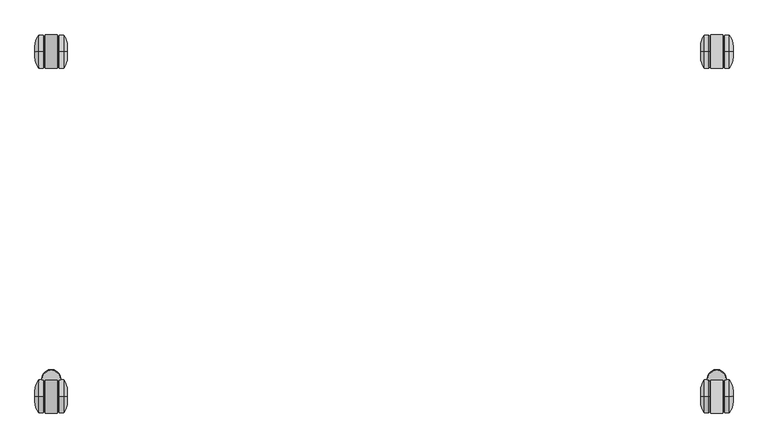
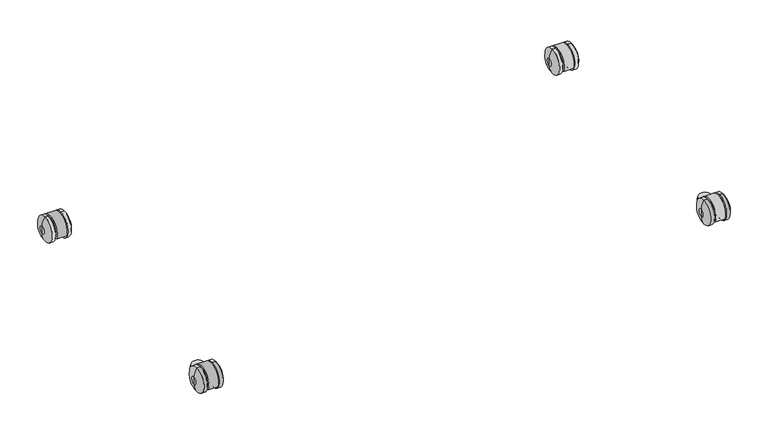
"""IFC4 building model written with IfcOpenShell, lengths in millimetres: furniture geometry, SmithSystem_AM_Table_Education_Elemental_NestAndFold_30D : 30D x 60W."""

from ifc_helpers import new_model, si_unit, point, frame, frame_2d, origin, place, context, project, spatial, polyline, circle_curve, ellipse_curve, trimmed, segment, composite_curve, outline, extrude, source, transform, mapped, element, save
from ifc_brep_helpers import plane_surface, cylinder_surface, revolved_surface, advanced_brep


def furniture_45545131(model_context):
    return source(origin(), model_context, "Body", "SolidModel", [
        extrude(outline(composite_curve([segment(trimmed(circle_curve(frame_2d((19.6281289, -2.9116943)), 19.8429183), [point((39.2562578, 0.0))], [point((0.0, 0.0))], False, "CARTESIAN"), True, "CONTINUOUS"), segment(polyline([(0.0, 0.0), (39.2562578, 0.0)]), True, "CONTINUOUS")], self_intersect=False)), frame((1475.9610423, -683.6722069, 35.4234949), z_axis=(0.0, -0.3384834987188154, 0.9409723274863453), x_axis=(-1.0, 0.0, 0.0)), (0.0, 0.0, 1.0), 5.0798819),
        extrude(outline(composite_curve([segment(polyline([(1388.6658268, 0.0), (1427.9220846, 0.0)]), True, "CONTINUOUS"), segment(trimmed(circle_curve(frame_2d((1408.2939557, -2.9116943)), 19.8429183), [point((1427.9220846, 0.0))], [point((1388.6658268, 0.0))], False, "CARTESIAN"), True, "CONTINUOUS")], self_intersect=False)), frame((1475.9610423, -683.6722069, 35.4234949), z_axis=(0.0, -0.3384834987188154, 0.9409723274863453), x_axis=(-1.0, 0.0, 0.0)), (0.0, 0.0, 1.0), 5.0798819),
        extrude(outline(composite_curve([segment(polyline([(-686.7716582, 19.392668), (-749.5174044, 19.392668)]), True, "CONTINUOUS"), segment(trimmed(circle_curve(frame_2d((-718.1445313, 34.2990606)), 34.7341), [point((-749.5174044, 19.392668))], [point((-686.7716582, 19.392668))], False, "CARTESIAN"), True, "CONTINUOUS")], self_intersect=False)), frame((54.6490652, 0.0, 0.0), z_axis=(1.0, 0.0, 0.0), x_axis=(0.0, 1.0, 0.0)), (0.0, 0.0, 1.0), 26.0360428),
        extrude(outline(composite_curve([segment(polyline([(32.7611544, 19.392668), (-29.9845918, 19.392668)]), True, "CONTINUOUS"), segment(trimmed(circle_curve(frame_2d((1.3882813, 34.2990606)), 34.7341), [point((-29.9845918, 19.392668))], [point((32.7611544, 19.392668))], False, "CARTESIAN"), True, "CONTINUOUS")], self_intersect=False)), frame((54.6490652, 0.0, 0.0), z_axis=(1.0, 0.0, 0.0), x_axis=(0.0, 1.0, 0.0)), (0.0, 0.0, 1.0), 26.0360428),
        extrude(outline(composite_curve([segment(polyline([(-686.7716582, 19.392668), (-749.5174044, 19.392668)]), True, "CONTINUOUS"), segment(trimmed(circle_curve(frame_2d((-718.1445313, 34.2990606)), 34.7341), [point((-749.5174044, 19.392668))], [point((-686.7716582, 19.392668))], False, "CARTESIAN"), True, "CONTINUOUS")], self_intersect=False)), frame((1443.314892, 0.0, 0.0), z_axis=(1.0, 0.0, 0.0), x_axis=(0.0, 1.0, 0.0)), (0.0, 0.0, 1.0), 26.0360428),
        extrude(outline(composite_curve([segment(polyline([(32.7611544, 19.392668), (-29.9845918, 19.392668)]), True, "CONTINUOUS"), segment(trimmed(circle_curve(frame_2d((1.3882813, 34.2990606)), 34.7341), [point((-29.9845918, 19.392668))], [point((32.7611544, 19.392668))], False, "CARTESIAN"), True, "CONTINUOUS")], self_intersect=False)), frame((1443.314892, 0.0, 0.0), z_axis=(1.0, 0.0, 0.0), x_axis=(0.0, 1.0, 0.0)), (0.0, 0.0, 1.0), 26.0360428),
        advanced_brep(
        [(1441.7769566, 1.3882813, 34.3697295), (1441.7769566, 1.3882813, 66.3180847), (1441.7769566, 1.3882813, 2.4213744), (1439.6062544, 1.3882813, 69.0331606), (1439.6062544, 1.3882813, -0.2937015), (1430.6015712, 1.3882813, 69.0331606), (1430.6015712, 1.3882813, -0.2937015), (1422.6841685, 1.3882813, 45.9515492), (1422.6841685, 1.3882813, 22.7879099), (1422.6841685, 1.3882813, 34.3697295)],
        [
            (0, 1),
            (1, 2, circle_curve(frame((1441.7769566, 1.3882813, 34.3697295), z_axis=(1.0, 0.0, 0.0), x_axis=(0.0, 0.0, 1.0)), 31.9483552)),
            (2, 0),
            (2, 1, circle_curve(frame((1441.7769566, 1.3882813, 34.3697295), z_axis=(1.0, 0.0, 0.0), x_axis=(0.0, 0.0, 1.0)), 31.9483552)),
            (1, 3),
            (3, 4, circle_curve(frame((1439.6062544, 1.3882813, 34.3697295), z_axis=(1.0, 0.0, 0.0), x_axis=(0.0, 0.0, 1.0)), 34.6634311)),
            (4, 2),
            (4, 3, circle_curve(frame((1439.6062544, 1.3882813, 34.3697295), z_axis=(1.0, 0.0, 0.0), x_axis=(0.0, 0.0, 1.0)), 34.6634311)),
            (3, 5),
            (5, 6, circle_curve(frame((1430.6015712, 1.3882813, 34.3697295), z_axis=(1.0, 0.0, 0.0), x_axis=(0.0, 0.0, 1.0)), 34.6634311)),
            (6, 4),
            (6, 5, circle_curve(frame((1430.6015712, 1.3882813, 34.3697295), z_axis=(1.0, 0.0, 0.0), x_axis=(0.0, 0.0, 1.0)), 34.6634311)),
            (5, 7, circle_curve(frame((1460.2877916, 1.3882813, 45.9515492), z_axis=(0.0, -1.0, 0.0), x_axis=(1.0, 0.0, 0.0)), 37.6036231)),
            (7, 8, circle_curve(frame((1422.6841685, 1.3882813, 34.3697295), z_axis=(1.0, 0.0, 0.0), x_axis=(0.0, 0.0, 1.0)), 11.5818197)),
            (8, 6, circle_curve(frame((1460.2877916, 1.3882813, 22.7879099), z_axis=(0.0, -1.0, 0.0), x_axis=(1.0, 0.0, 0.0)), 37.6036231)),
            (8, 7, circle_curve(frame((1422.6841685, 1.3882813, 34.3697295), z_axis=(1.0, 0.0, 0.0), x_axis=(0.0, 0.0, 1.0)), 11.5818197)),
            (7, 9),
            (9, 8),
        ],
        [
            plane_surface(frame((1441.7769566, 1.3882813, 34.3697295), z_axis=(1.0, 0.0, 0.0), x_axis=(0.0, 0.0, 1.0))),
            revolved_surface(polyline([(1439.6062544, 1.3882813, 69.0331606), (1441.7769566, 1.3882813, 66.3180847)]), (1422.6841685, 1.3882813, 34.3697295), (1.0, 0.0, 0.0)),
            cylinder_surface(frame((1422.6841685, 1.3882813, 34.3697295), z_axis=(1.0, 0.0, 0.0), x_axis=(0.0, 0.0, 1.0)), 34.6634311),
            revolved_surface(trimmed(ellipse_curve(frame((1460.2877916, 1.3882813, 45.9515492), z_axis=(0.0, 1.0, 0.0), x_axis=(1.0, 0.0, 0.0)), 37.6036231, 37.6036231), [point((1422.6841685, 1.3882813, 45.9515492))], [point((1430.6015712, 1.3882813, 69.0331606))], True, "CARTESIAN"), (1422.6841685, 1.3882813, 34.3697295), (1.0, 0.0, 0.0)),
            plane_surface(frame((1422.6841685, 1.3882813, 34.3697295), z_axis=(-1.0, 0.0, 0.0), x_axis=(0.0, 0.0, 1.0))),
        ],
        [
            (0, [[1, 2, 3]]),
            (0, [[-3, 4, -1]]),
            (1, [[-2, 5, 6, 7]]),
            (1, [[-4, -7, 8, -5]]),
            (2, [[-6, 9, 10, 11]]),
            (2, [[-8, -11, 12, -9]]),
            (3, [[-10, 13, 14, 15]]),
            (3, [[-12, -15, 16, -13]]),
            (4, [[-14, 17, 18]]),
            (4, [[-16, -18, -17]]),
        ],
    ),
        advanced_brep(
        [(1490.4247373, 1.3882813, 34.3697295), (1490.4247373, 1.3882813, 45.9515492), (1490.4247373, 1.3882813, 22.7879099), (1482.5073346, 1.3882813, 69.0331606), (1482.5073346, 1.3882813, -0.2937015), (1473.5026514, 1.3882813, 69.0331606), (1473.5026514, 1.3882813, -0.2937015), (1471.3319492, 1.3882813, 66.3180847), (1471.3319492, 1.3882813, 2.4213744), (1471.3319492, 1.3882813, 34.3697295)],
        [
            (0, 1),
            (1, 2, circle_curve(frame((1490.4247373, 1.3882813, 34.3697295), z_axis=(1.0, 0.0, 0.0), x_axis=(0.0, 0.0, 1.0)), 11.5818197)),
            (2, 0),
            (2, 1, circle_curve(frame((1490.4247373, 1.3882813, 34.3697295), z_axis=(1.0, 0.0, 0.0), x_axis=(0.0, 0.0, 1.0)), 11.5818197)),
            (1, 3, circle_curve(frame((1452.8211142, 1.3882813, 45.9515492), z_axis=(0.0, -1.0, 0.0), x_axis=(1.0, 0.0, 0.0)), 37.6036231)),
            (3, 4, circle_curve(frame((1482.5073346, 1.3882813, 34.3697295), z_axis=(1.0, 0.0, 0.0), x_axis=(0.0, 0.0, 1.0)), 34.6634311)),
            (4, 2, circle_curve(frame((1452.8211142, 1.3882813, 22.7879099), z_axis=(0.0, -1.0, 0.0), x_axis=(1.0, 0.0, 0.0)), 37.6036231)),
            (4, 3, circle_curve(frame((1482.5073346, 1.3882813, 34.3697295), z_axis=(1.0, 0.0, 0.0), x_axis=(0.0, 0.0, 1.0)), 34.6634311)),
            (3, 5),
            (5, 6, circle_curve(frame((1473.5026514, 1.3882813, 34.3697295), z_axis=(1.0, 0.0, 0.0), x_axis=(0.0, 0.0, 1.0)), 34.6634311)),
            (6, 4),
            (6, 5, circle_curve(frame((1473.5026514, 1.3882813, 34.3697295), z_axis=(1.0, 0.0, 0.0), x_axis=(0.0, 0.0, 1.0)), 34.6634311)),
            (5, 7),
            (7, 8, circle_curve(frame((1471.3319492, 1.3882813, 34.3697295), z_axis=(1.0, 0.0, 0.0), x_axis=(0.0, 0.0, 1.0)), 31.9483552)),
            (8, 6),
            (8, 7, circle_curve(frame((1471.3319492, 1.3882813, 34.3697295), z_axis=(1.0, 0.0, 0.0), x_axis=(0.0, 0.0, 1.0)), 31.9483552)),
            (7, 9),
            (9, 8),
        ],
        [
            plane_surface(frame((1490.4247373, 1.3882813, 34.3697295), z_axis=(1.0, 0.0, 0.0), x_axis=(0.0, 0.0, 1.0))),
            revolved_surface(trimmed(ellipse_curve(frame((1452.8211142, 1.3882813, 45.9515492), z_axis=(0.0, 1.0, 0.0), x_axis=(1.0, 0.0, 0.0)), 37.6036231, 37.6036231), [point((1482.5073346, 1.3882813, 69.0331606))], [point((1490.4247373, 1.3882813, 45.9515492))], True, "CARTESIAN"), (1422.6841685, 1.3882813, 34.3697295), (1.0, 0.0, 0.0)),
            cylinder_surface(frame((1422.6841685, 1.3882813, 34.3697295), z_axis=(1.0, 0.0, 0.0), x_axis=(0.0, 0.0, 1.0)), 34.6634311),
            revolved_surface(polyline([(1471.3319492, 1.3882813, 66.3180847), (1473.5026514, 1.3882813, 69.0331606)]), (1422.6841685, 1.3882813, 34.3697295), (1.0, 0.0, 0.0)),
            plane_surface(frame((1471.3319492, 1.3882813, 34.3697295), z_axis=(-1.0, 0.0, 0.0), x_axis=(0.0, 0.0, 1.0))),
        ],
        [
            (0, [[1, 2, 3]]),
            (0, [[-3, 4, -1]]),
            (1, [[-2, 5, 6, 7]]),
            (1, [[-4, -7, 8, -5]]),
            (2, [[-6, 9, 10, 11]]),
            (2, [[-8, -11, 12, -9]]),
            (3, [[-10, 13, 14, 15]]),
            (3, [[-12, -15, 16, -13]]),
            (4, [[-14, 17, 18]]),
            (4, [[-16, -18, -17]]),
        ],
    ),
        advanced_brep(
        [(101.3158315, 1.3882813, 34.3697295), (101.3158315, 1.3882813, 45.9515492), (101.3158315, 1.3882813, 22.7879099), (93.3984288, 1.3882813, 69.0331606), (93.3984288, 1.3882813, -0.2937015), (84.3937456, 1.3882813, 69.0331606), (84.3937456, 1.3882813, -0.2937015), (82.2230434, 1.3882813, 66.3180847), (82.2230434, 1.3882813, 2.4213744), (82.2230434, 1.3882813, 34.3697295)],
        [
            (0, 1),
            (1, 2, circle_curve(frame((101.3158315, 1.3882813, 34.3697295), z_axis=(1.0, 0.0, 0.0), x_axis=(0.0, 0.0, 1.0)), 11.5818197)),
            (2, 0),
            (2, 1, circle_curve(frame((101.3158315, 1.3882813, 34.3697295), z_axis=(1.0, 0.0, 0.0), x_axis=(0.0, 0.0, 1.0)), 11.5818197)),
            (1, 3, circle_curve(frame((63.7122084, 1.3882813, 45.9515492), z_axis=(0.0, -1.0, 0.0), x_axis=(1.0, 0.0, 0.0)), 37.6036231)),
            (3, 4, circle_curve(frame((93.3984288, 1.3882813, 34.3697295), z_axis=(1.0, 0.0, 0.0), x_axis=(0.0, 0.0, 1.0)), 34.6634311)),
            (4, 2, circle_curve(frame((63.7122084, 1.3882813, 22.7879099), z_axis=(0.0, -1.0, 0.0), x_axis=(1.0, 0.0, 0.0)), 37.6036231)),
            (4, 3, circle_curve(frame((93.3984288, 1.3882813, 34.3697295), z_axis=(1.0, 0.0, 0.0), x_axis=(0.0, 0.0, 1.0)), 34.6634311)),
            (3, 5),
            (5, 6, circle_curve(frame((84.3937456, 1.3882813, 34.3697295), z_axis=(1.0, 0.0, 0.0), x_axis=(0.0, 0.0, 1.0)), 34.6634311)),
            (6, 4),
            (6, 5, circle_curve(frame((84.3937456, 1.3882813, 34.3697295), z_axis=(1.0, 0.0, 0.0), x_axis=(0.0, 0.0, 1.0)), 34.6634311)),
            (5, 7),
            (7, 8, circle_curve(frame((82.2230434, 1.3882813, 34.3697295), z_axis=(1.0, 0.0, 0.0), x_axis=(0.0, 0.0, 1.0)), 31.9483552)),
            (8, 6),
            (8, 7, circle_curve(frame((82.2230434, 1.3882813, 34.3697295), z_axis=(1.0, 0.0, 0.0), x_axis=(0.0, 0.0, 1.0)), 31.9483552)),
            (7, 9),
            (9, 8),
        ],
        [
            plane_surface(frame((101.3158315, 1.3882813, 34.3697295), z_axis=(1.0, 0.0, 0.0), x_axis=(0.0, 0.0, 1.0))),
            revolved_surface(trimmed(ellipse_curve(frame((63.7122084, 1.3882813, 45.9515492), z_axis=(0.0, 1.0, 0.0), x_axis=(1.0, 0.0, 0.0)), 37.6036231, 37.6036231), [point((93.3984288, 1.3882813, 69.0331606))], [point((101.3158315, 1.3882813, 45.9515492))], True, "CARTESIAN"), (1422.6841685, 1.3882813, 34.3697295), (1.0, 0.0, 0.0)),
            cylinder_surface(frame((1422.6841685, 1.3882813, 34.3697295), z_axis=(1.0, 0.0, 0.0), x_axis=(0.0, 0.0, 1.0)), 34.6634311),
            revolved_surface(polyline([(82.2230434, 1.3882813, 66.3180847), (84.3937456, 1.3882813, 69.0331606)]), (1422.6841685, 1.3882813, 34.3697295), (1.0, 0.0, 0.0)),
            plane_surface(frame((82.2230434, 1.3882813, 34.3697295), z_axis=(-1.0, 0.0, 0.0), x_axis=(0.0, 0.0, 1.0))),
        ],
        [
            (0, [[1, 2, 3]]),
            (0, [[-3, 4, -1]]),
            (1, [[-2, 5, 6, 7]]),
            (1, [[-4, -7, 8, -5]]),
            (2, [[-6, 9, 10, 11]]),
            (2, [[-8, -11, 12, -9]]),
            (3, [[-10, 13, 14, 15]]),
            (3, [[-12, -15, 16, -13]]),
            (4, [[-14, 17, 18]]),
            (4, [[-16, -18, -17]]),
        ],
    ),
        advanced_brep(
        [(52.6680508, 1.3882813, 34.3697295), (52.6680508, 1.3882813, 66.3180847), (52.6680508, 1.3882813, 2.4213744), (50.4973486, 1.3882813, 69.0331606), (50.4973486, 1.3882813, -0.2937015), (41.4926654, 1.3882813, 69.0331606), (41.4926654, 1.3882813, -0.2937015), (33.5752627, 1.3882813, 45.9515492), (33.5752627, 1.3882813, 22.7879099), (33.5752627, 1.3882813, 34.3697295)],
        [
            (0, 1),
            (1, 2, circle_curve(frame((52.6680508, 1.3882813, 34.3697295), z_axis=(1.0, 0.0, 0.0), x_axis=(0.0, 0.0, 1.0)), 31.9483552)),
            (2, 0),
            (2, 1, circle_curve(frame((52.6680508, 1.3882813, 34.3697295), z_axis=(1.0, 0.0, 0.0), x_axis=(0.0, 0.0, 1.0)), 31.9483552)),
            (1, 3),
            (3, 4, circle_curve(frame((50.4973486, 1.3882813, 34.3697295), z_axis=(1.0, 0.0, 0.0), x_axis=(0.0, 0.0, 1.0)), 34.6634311)),
            (4, 2),
            (4, 3, circle_curve(frame((50.4973486, 1.3882813, 34.3697295), z_axis=(1.0, 0.0, 0.0), x_axis=(0.0, 0.0, 1.0)), 34.6634311)),
            (3, 5),
            (5, 6, circle_curve(frame((41.4926654, 1.3882813, 34.3697295), z_axis=(1.0, 0.0, 0.0), x_axis=(0.0, 0.0, 1.0)), 34.6634311)),
            (6, 4),
            (6, 5, circle_curve(frame((41.4926654, 1.3882813, 34.3697295), z_axis=(1.0, 0.0, 0.0), x_axis=(0.0, 0.0, 1.0)), 34.6634311)),
            (5, 7, circle_curve(frame((71.1788858, 1.3882813, 45.9515492), z_axis=(0.0, -1.0, 0.0), x_axis=(1.0, 0.0, 0.0)), 37.6036231)),
            (7, 8, circle_curve(frame((33.5752627, 1.3882813, 34.3697295), z_axis=(1.0, 0.0, 0.0), x_axis=(0.0, 0.0, 1.0)), 11.5818197)),
            (8, 6, circle_curve(frame((71.1788858, 1.3882813, 22.7879099), z_axis=(0.0, -1.0, 0.0), x_axis=(1.0, 0.0, 0.0)), 37.6036231)),
            (8, 7, circle_curve(frame((33.5752627, 1.3882813, 34.3697295), z_axis=(1.0, 0.0, 0.0), x_axis=(0.0, 0.0, 1.0)), 11.5818197)),
            (7, 9),
            (9, 8),
        ],
        [
            plane_surface(frame((52.6680508, 1.3882813, 34.3697295), z_axis=(1.0, 0.0, 0.0), x_axis=(0.0, 0.0, 1.0))),
            revolved_surface(polyline([(50.4973486, 1.3882813, 69.0331606), (52.6680508, 1.3882813, 66.3180847)]), (1422.6841685, 1.3882813, 34.3697295), (1.0, 0.0, 0.0)),
            cylinder_surface(frame((1422.6841685, 1.3882813, 34.3697295), z_axis=(1.0, 0.0, 0.0), x_axis=(0.0, 0.0, 1.0)), 34.6634311),
            revolved_surface(trimmed(ellipse_curve(frame((71.1788858, 1.3882813, 45.9515492), z_axis=(0.0, 1.0, 0.0), x_axis=(1.0, 0.0, 0.0)), 37.6036231, 37.6036231), [point((33.5752627, 1.3882813, 45.9515492))], [point((41.4926654, 1.3882813, 69.0331606))], True, "CARTESIAN"), (1422.6841685, 1.3882813, 34.3697295), (1.0, 0.0, 0.0)),
            plane_surface(frame((33.5752627, 1.3882813, 34.3697295), z_axis=(-1.0, 0.0, 0.0), x_axis=(0.0, 0.0, 1.0))),
        ],
        [
            (0, [[1, 2, 3]]),
            (0, [[-3, 4, -1]]),
            (1, [[-2, 5, 6, 7]]),
            (1, [[-4, -7, 8, -5]]),
            (2, [[-6, 9, 10, 11]]),
            (2, [[-8, -11, 12, -9]]),
            (3, [[-10, 13, 14, 15]]),
            (3, [[-12, -15, 16, -13]]),
            (4, [[-14, 17, 18]]),
            (4, [[-16, -18, -17]]),
        ],
    ),
        advanced_brep(
        [(1441.7769566, -718.2151283, 2.4213744), (1441.7769566, -718.2151283, 66.3180847), (1441.7769566, -718.2151283, 34.3697295), (1439.6062544, -718.2151283, -0.2937015), (1439.6062544, -718.2151283, 69.0331606), (1430.6015712, -718.2151283, -0.2937015), (1430.6015712, -718.2151283, 69.0331606), (1422.6841685, -718.2151283, 22.7879099), (1422.6841685, -718.2151283, 45.9515492), (1422.6841685, -718.2151283, 34.3697295)],
        [
            (0, 1, circle_curve(frame((1441.7769566, -718.2151283, 34.3697295), z_axis=(1.0, 0.0, 0.0), x_axis=(0.0, 0.0, 1.0)), 31.9483552)),
            (1, 2),
            (2, 0),
            (1, 0, circle_curve(frame((1441.7769566, -718.2151283, 34.3697295), z_axis=(1.0, 0.0, 0.0), x_axis=(0.0, 0.0, 1.0)), 31.9483552)),
            (3, 4, circle_curve(frame((1439.6062544, -718.2151283, 34.3697295), z_axis=(1.0, 0.0, 0.0), x_axis=(0.0, 0.0, 1.0)), 34.6634311)),
            (4, 1),
            (0, 3),
            (4, 3, circle_curve(frame((1439.6062544, -718.2151283, 34.3697295), z_axis=(1.0, 0.0, 0.0), x_axis=(0.0, 0.0, 1.0)), 34.6634311)),
            (5, 6, circle_curve(frame((1430.6015712, -718.2151283, 34.3697295), z_axis=(1.0, 0.0, 0.0), x_axis=(0.0, 0.0, 1.0)), 34.6634311)),
            (6, 4),
            (3, 5),
            (6, 5, circle_curve(frame((1430.6015712, -718.2151283, 34.3697295), z_axis=(1.0, 0.0, 0.0), x_axis=(0.0, 0.0, 1.0)), 34.6634311)),
            (7, 8, circle_curve(frame((1422.6841685, -718.2151283, 34.3697295), z_axis=(1.0, 0.0, 0.0), x_axis=(0.0, 0.0, 1.0)), 11.5818197)),
            (8, 6, circle_curve(frame((1460.2877916, -718.2151283, 45.9515492), z_axis=(0.0, 1.0, 0.0), x_axis=(1.0, 0.0, 0.0)), 37.6036231)),
            (5, 7, circle_curve(frame((1460.2877916, -718.2151283, 22.7879099), z_axis=(0.0, 1.0, 0.0), x_axis=(1.0, 0.0, 0.0)), 37.6036231)),
            (8, 7, circle_curve(frame((1422.6841685, -718.2151283, 34.3697295), z_axis=(1.0, 0.0, 0.0), x_axis=(0.0, 0.0, 1.0)), 11.5818197)),
            (9, 8),
            (7, 9),
        ],
        [
            plane_surface(frame((1441.7769566, -718.2151283, 34.3697295), z_axis=(1.0, 0.0, 0.0), x_axis=(0.0, 0.0, 1.0))),
            revolved_surface(polyline([(1441.7769566, -718.2151283, 66.3180847), (1439.6062544, -718.2151283, 69.0331606)]), (1422.6841685, -718.2151283, 34.3697295), (-1.0, 0.0, 0.0)),
            cylinder_surface(frame((1422.6841685, -718.2151283, 34.3697295), z_axis=(-1.0, 0.0, 0.0), x_axis=(0.0, 0.0, 1.0)), 34.6634311),
            revolved_surface(trimmed(ellipse_curve(frame((1460.2877916, -718.2151283, 45.9515492), z_axis=(0.0, -1.0, 0.0), x_axis=(1.0, 0.0, 0.0)), 37.6036231, 37.6036231), [point((1430.6015712, -718.2151283, 69.0331606))], [point((1422.6841685, -718.2151283, 45.9515492))], True, "CARTESIAN"), (1422.6841685, -718.2151283, 34.3697295), (-1.0, 0.0, 0.0)),
            plane_surface(frame((1422.6841685, -718.2151283, 34.3697295), z_axis=(-1.0, 0.0, 0.0), x_axis=(0.0, 0.0, 1.0))),
        ],
        [
            (0, [[1, 2, 3]]),
            (0, [[4, -3, -2]]),
            (1, [[5, 6, -1, 7]]),
            (1, [[8, -7, -4, -6]]),
            (2, [[9, 10, -5, 11]]),
            (2, [[12, -11, -8, -10]]),
            (3, [[13, 14, -9, 15]]),
            (3, [[16, -15, -12, -14]]),
            (4, [[17, -13, 18]]),
            (4, [[-18, -16, -17]]),
        ],
    ),
        advanced_brep(
        [(1490.4247373, -718.2151283, 22.7879099), (1490.4247373, -718.2151283, 45.9515492), (1490.4247373, -718.2151283, 34.3697295), (1482.5073346, -718.2151283, -0.2937015), (1482.5073346, -718.2151283, 69.0331606), (1473.5026514, -718.2151283, -0.2937015), (1473.5026514, -718.2151283, 69.0331606), (1471.3319492, -718.2151283, 2.4213744), (1471.3319492, -718.2151283, 66.3180847), (1471.3319492, -718.2151283, 34.3697295)],
        [
            (0, 1, circle_curve(frame((1490.4247373, -718.2151283, 34.3697295), z_axis=(1.0, 0.0, 0.0), x_axis=(0.0, 0.0, 1.0)), 11.5818197)),
            (1, 2),
            (2, 0),
            (1, 0, circle_curve(frame((1490.4247373, -718.2151283, 34.3697295), z_axis=(1.0, 0.0, 0.0), x_axis=(0.0, 0.0, 1.0)), 11.5818197)),
            (3, 4, circle_curve(frame((1482.5073346, -718.2151283, 34.3697295), z_axis=(1.0, 0.0, 0.0), x_axis=(0.0, 0.0, 1.0)), 34.6634311)),
            (4, 1, circle_curve(frame((1452.8211142, -718.2151283, 45.9515492), z_axis=(0.0, 1.0, 0.0), x_axis=(1.0, 0.0, 0.0)), 37.6036231)),
            (0, 3, circle_curve(frame((1452.8211142, -718.2151283, 22.7879099), z_axis=(0.0, 1.0, 0.0), x_axis=(1.0, 0.0, 0.0)), 37.6036231)),
            (4, 3, circle_curve(frame((1482.5073346, -718.2151283, 34.3697295), z_axis=(1.0, 0.0, 0.0), x_axis=(0.0, 0.0, 1.0)), 34.6634311)),
            (5, 6, circle_curve(frame((1473.5026514, -718.2151283, 34.3697295), z_axis=(1.0, 0.0, 0.0), x_axis=(0.0, 0.0, 1.0)), 34.6634311)),
            (6, 4),
            (3, 5),
            (6, 5, circle_curve(frame((1473.5026514, -718.2151283, 34.3697295), z_axis=(1.0, 0.0, 0.0), x_axis=(0.0, 0.0, 1.0)), 34.6634311)),
            (7, 8, circle_curve(frame((1471.3319492, -718.2151283, 34.3697295), z_axis=(1.0, 0.0, 0.0), x_axis=(0.0, 0.0, 1.0)), 31.9483552)),
            (8, 6),
            (5, 7),
            (8, 7, circle_curve(frame((1471.3319492, -718.2151283, 34.3697295), z_axis=(1.0, 0.0, 0.0), x_axis=(0.0, 0.0, 1.0)), 31.9483552)),
            (9, 8),
            (7, 9),
        ],
        [
            plane_surface(frame((1490.4247373, -718.2151283, 34.3697295), z_axis=(1.0, 0.0, 0.0), x_axis=(0.0, 0.0, 1.0))),
            revolved_surface(trimmed(ellipse_curve(frame((1452.8211142, -718.2151283, 45.9515492), z_axis=(0.0, -1.0, 0.0), x_axis=(1.0, 0.0, 0.0)), 37.6036231, 37.6036231), [point((1490.4247373, -718.2151283, 45.9515492))], [point((1482.5073346, -718.2151283, 69.0331606))], True, "CARTESIAN"), (1422.6841685, -718.2151283, 34.3697295), (-1.0, 0.0, 0.0)),
            cylinder_surface(frame((1422.6841685, -718.2151283, 34.3697295), z_axis=(-1.0, 0.0, 0.0), x_axis=(0.0, 0.0, 1.0)), 34.6634311),
            revolved_surface(polyline([(1473.5026514, -718.2151283, 69.0331606), (1471.3319492, -718.2151283, 66.3180847)]), (1422.6841685, -718.2151283, 34.3697295), (-1.0, 0.0, 0.0)),
            plane_surface(frame((1471.3319492, -718.2151283, 34.3697295), z_axis=(-1.0, 0.0, 0.0), x_axis=(0.0, 0.0, 1.0))),
        ],
        [
            (0, [[1, 2, 3]]),
            (0, [[4, -3, -2]]),
            (1, [[5, 6, -1, 7]]),
            (1, [[8, -7, -4, -6]]),
            (2, [[9, 10, -5, 11]]),
            (2, [[12, -11, -8, -10]]),
            (3, [[13, 14, -9, 15]]),
            (3, [[16, -15, -12, -14]]),
            (4, [[17, -13, 18]]),
            (4, [[-18, -16, -17]]),
        ],
    ),
        advanced_brep(
        [(101.3158315, -718.2151283, 22.7879099), (101.3158315, -718.2151283, 45.9515492), (101.3158315, -718.2151283, 34.3697295), (93.3984288, -718.2151283, -0.2937015), (93.3984288, -718.2151283, 69.0331606), (84.3937456, -718.2151283, -0.2937015), (84.3937456, -718.2151283, 69.0331606), (82.2230434, -718.2151283, 2.4213744), (82.2230434, -718.2151283, 66.3180847), (82.2230434, -718.2151283, 34.3697295)],
        [
            (0, 1, circle_curve(frame((101.3158315, -718.2151283, 34.3697295), z_axis=(1.0, 0.0, 0.0), x_axis=(0.0, 0.0, 1.0)), 11.5818197)),
            (1, 2),
            (2, 0),
            (1, 0, circle_curve(frame((101.3158315, -718.2151283, 34.3697295), z_axis=(1.0, 0.0, 0.0), x_axis=(0.0, 0.0, 1.0)), 11.5818197)),
            (3, 4, circle_curve(frame((93.3984288, -718.2151283, 34.3697295), z_axis=(1.0, 0.0, 0.0), x_axis=(0.0, 0.0, 1.0)), 34.6634311)),
            (4, 1, circle_curve(frame((63.7122084, -718.2151283, 45.9515492), z_axis=(0.0, 1.0, 0.0), x_axis=(1.0, 0.0, 0.0)), 37.6036231)),
            (0, 3, circle_curve(frame((63.7122084, -718.2151283, 22.7879099), z_axis=(0.0, 1.0, 0.0), x_axis=(1.0, 0.0, 0.0)), 37.6036231)),
            (4, 3, circle_curve(frame((93.3984288, -718.2151283, 34.3697295), z_axis=(1.0, 0.0, 0.0), x_axis=(0.0, 0.0, 1.0)), 34.6634311)),
            (5, 6, circle_curve(frame((84.3937456, -718.2151283, 34.3697295), z_axis=(1.0, 0.0, 0.0), x_axis=(0.0, 0.0, 1.0)), 34.6634311)),
            (6, 4),
            (3, 5),
            (6, 5, circle_curve(frame((84.3937456, -718.2151283, 34.3697295), z_axis=(1.0, 0.0, 0.0), x_axis=(0.0, 0.0, 1.0)), 34.6634311)),
            (7, 8, circle_curve(frame((82.2230434, -718.2151283, 34.3697295), z_axis=(1.0, 0.0, 0.0), x_axis=(0.0, 0.0, 1.0)), 31.9483552)),
            (8, 6),
            (5, 7),
            (8, 7, circle_curve(frame((82.2230434, -718.2151283, 34.3697295), z_axis=(1.0, 0.0, 0.0), x_axis=(0.0, 0.0, 1.0)), 31.9483552)),
            (9, 8),
            (7, 9),
        ],
        [
            plane_surface(frame((101.3158315, -718.2151283, 34.3697295), z_axis=(1.0, 0.0, 0.0), x_axis=(0.0, 0.0, 1.0))),
            revolved_surface(trimmed(ellipse_curve(frame((63.7122084, -718.2151283, 45.9515492), z_axis=(0.0, -1.0, 0.0), x_axis=(1.0, 0.0, 0.0)), 37.6036231, 37.6036231), [point((101.3158315, -718.2151283, 45.9515492))], [point((93.3984288, -718.2151283, 69.0331606))], True, "CARTESIAN"), (1422.6841685, -718.2151283, 34.3697295), (-1.0, 0.0, 0.0)),
            cylinder_surface(frame((1422.6841685, -718.2151283, 34.3697295), z_axis=(-1.0, 0.0, 0.0), x_axis=(0.0, 0.0, 1.0)), 34.6634311),
            revolved_surface(polyline([(84.3937456, -718.2151283, 69.0331606), (82.2230434, -718.2151283, 66.3180847)]), (1422.6841685, -718.2151283, 34.3697295), (-1.0, 0.0, 0.0)),
            plane_surface(frame((82.2230434, -718.2151283, 34.3697295), z_axis=(-1.0, 0.0, 0.0), x_axis=(0.0, 0.0, 1.0))),
        ],
        [
            (0, [[1, 2, 3]]),
            (0, [[4, -3, -2]]),
            (1, [[5, 6, -1, 7]]),
            (1, [[8, -7, -4, -6]]),
            (2, [[9, 10, -5, 11]]),
            (2, [[12, -11, -8, -10]]),
            (3, [[13, 14, -9, 15]]),
            (3, [[16, -15, -12, -14]]),
            (4, [[17, -13, 18]]),
            (4, [[-18, -16, -17]]),
        ],
    ),
        advanced_brep(
        [(52.6680508, -718.2151283, 2.4213744), (52.6680508, -718.2151283, 66.3180847), (52.6680508, -718.2151283, 34.3697295), (50.4973486, -718.2151283, -0.2937015), (50.4973486, -718.2151283, 69.0331606), (41.4926654, -718.2151283, -0.2937015), (41.4926654, -718.2151283, 69.0331606), (33.5752627, -718.2151283, 22.7879099), (33.5752627, -718.2151283, 45.9515492), (33.5752627, -718.2151283, 34.3697295)],
        [
            (0, 1, circle_curve(frame((52.6680508, -718.2151283, 34.3697295), z_axis=(1.0, 0.0, 0.0), x_axis=(0.0, 0.0, 1.0)), 31.9483552)),
            (1, 2),
            (2, 0),
            (1, 0, circle_curve(frame((52.6680508, -718.2151283, 34.3697295), z_axis=(1.0, 0.0, 0.0), x_axis=(0.0, 0.0, 1.0)), 31.9483552)),
            (3, 4, circle_curve(frame((50.4973486, -718.2151283, 34.3697295), z_axis=(1.0, 0.0, 0.0), x_axis=(0.0, 0.0, 1.0)), 34.6634311)),
            (4, 1),
            (0, 3),
            (4, 3, circle_curve(frame((50.4973486, -718.2151283, 34.3697295), z_axis=(1.0, 0.0, 0.0), x_axis=(0.0, 0.0, 1.0)), 34.6634311)),
            (5, 6, circle_curve(frame((41.4926654, -718.2151283, 34.3697295), z_axis=(1.0, 0.0, 0.0), x_axis=(0.0, 0.0, 1.0)), 34.6634311)),
            (6, 4),
            (3, 5),
            (6, 5, circle_curve(frame((41.4926654, -718.2151283, 34.3697295), z_axis=(1.0, 0.0, 0.0), x_axis=(0.0, 0.0, 1.0)), 34.6634311)),
            (7, 8, circle_curve(frame((33.5752627, -718.2151283, 34.3697295), z_axis=(1.0, 0.0, 0.0), x_axis=(0.0, 0.0, 1.0)), 11.5818197)),
            (8, 6, circle_curve(frame((71.1788858, -718.2151283, 45.9515492), z_axis=(0.0, 1.0, 0.0), x_axis=(1.0, 0.0, 0.0)), 37.6036231)),
            (5, 7, circle_curve(frame((71.1788858, -718.2151283, 22.7879099), z_axis=(0.0, 1.0, 0.0), x_axis=(1.0, 0.0, 0.0)), 37.6036231)),
            (8, 7, circle_curve(frame((33.5752627, -718.2151283, 34.3697295), z_axis=(1.0, 0.0, 0.0), x_axis=(0.0, 0.0, 1.0)), 11.5818197)),
            (9, 8),
            (7, 9),
        ],
        [
            plane_surface(frame((52.6680508, -718.2151283, 34.3697295), z_axis=(1.0, 0.0, 0.0), x_axis=(0.0, 0.0, 1.0))),
            revolved_surface(polyline([(52.6680508, -718.2151283, 66.3180847), (50.4973486, -718.2151283, 69.0331606)]), (1422.6841685, -718.2151283, 34.3697295), (-1.0, 0.0, 0.0)),
            cylinder_surface(frame((1422.6841685, -718.2151283, 34.3697295), z_axis=(-1.0, 0.0, 0.0), x_axis=(0.0, 0.0, 1.0)), 34.6634311),
            revolved_surface(trimmed(ellipse_curve(frame((71.1788858, -718.2151283, 45.9515492), z_axis=(0.0, -1.0, 0.0), x_axis=(1.0, 0.0, 0.0)), 37.6036231, 37.6036231), [point((41.4926654, -718.2151283, 69.0331606))], [point((33.5752627, -718.2151283, 45.9515492))], True, "CARTESIAN"), (1422.6841685, -718.2151283, 34.3697295), (-1.0, 0.0, 0.0)),
            plane_surface(frame((33.5752627, -718.2151283, 34.3697295), z_axis=(-1.0, 0.0, 0.0), x_axis=(0.0, 0.0, 1.0))),
        ],
        [
            (0, [[1, 2, 3]]),
            (0, [[4, -3, -2]]),
            (1, [[5, 6, -1, 7]]),
            (1, [[8, -7, -4, -6]]),
            (2, [[9, 10, -5, 11]]),
            (2, [[12, -11, -8, -10]]),
            (3, [[13, 14, -9, 15]]),
            (3, [[16, -15, -12, -14]]),
            (4, [[17, -13, 18]]),
            (4, [[-18, -16, -17]]),
        ],
    ),
    ])


if __name__ == "__main__":
    model = new_model("IFC4")
    model_context = context("Model", 3, world=origin())
    ifc_project = project(units=[si_unit("LENGTHUNIT", "METRE", prefix="MILLI")], contexts=[model_context])
    site = spatial("IfcSite", under=ifc_project)
    building = spatial("IfcBuilding", under=site)
    placement = place(None, origin())
    furniture_shape = furniture_45545131(model_context)
    element("IfcFurniture", 1, ObjectType="SmithSystem_AM_Table_Education_Elemental_NestAndFold_30D : 30D x 60W", at=placement, inside=building, context=model_context, shape_type="MappedRepresentation", body=[
        mapped(furniture_shape, transform((0.0, 0.0, 0.0), x_axis=(1.0, 0.0, 0.0), y_axis=(0.0, 1.0, 0.0), z_axis=(0.0, 0.0, 1.0))),
    ])
    save(model, "model.ifc")
